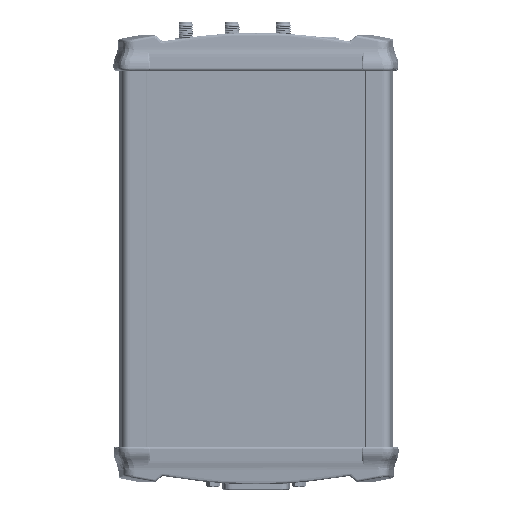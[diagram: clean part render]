
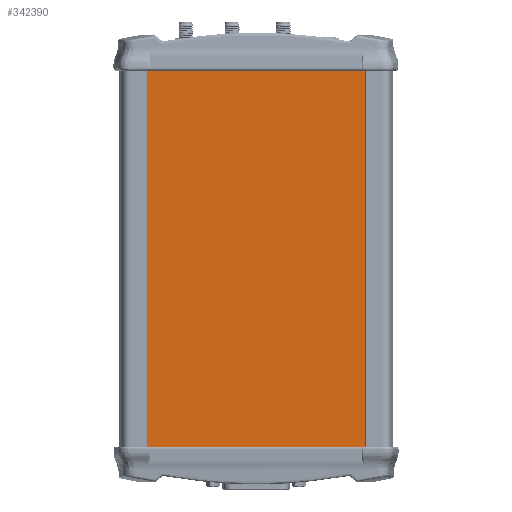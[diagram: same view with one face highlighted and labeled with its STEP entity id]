
A CAD part, front view. The second image highlights one B-rep face of the part: STEP entity #342390.
In plain terms, the highlighted planar face has unit normal (0, -1, 0).
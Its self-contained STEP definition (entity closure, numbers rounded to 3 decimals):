
#36130 = PLANE ( 'NONE',  #423525 ) ;
#43045 = DIRECTION ( 'NONE',  ( -1., 0., 0. ) ) ;
#44597 = LINE ( 'NONE', #115250, #405088 ) ;
#44771 = DIRECTION ( 'NONE',  ( 0., 0., -1. ) ) ;
#53757 = EDGE_LOOP ( 'NONE', ( #518011, #621572, #378261, #443428 ) ) ;
#55401 = EDGE_CURVE ( 'NONE', #606181, #86965, #269823, .T. ) ;
#62452 = VERTEX_POINT ( 'NONE', #195645 ) ;
#80861 = CARTESIAN_POINT ( 'NONE',  ( -42.5, -24.5, -100. ) ) ;
#86965 = VERTEX_POINT ( 'NONE', #520982 ) ;
#115250 = CARTESIAN_POINT ( 'NONE',  ( 42.5, -24.5, -100. ) ) ;
#129766 = CARTESIAN_POINT ( 'NONE',  ( -42.5, -24.5, -100. ) ) ;
#195572 = CARTESIAN_POINT ( 'NONE',  ( 42.5, -24.5, -100. ) ) ;
#195645 = CARTESIAN_POINT ( 'NONE',  ( 42.5, -24.5, -100. ) ) ;
#269823 = LINE ( 'NONE', #80861, #512175 ) ;
#335079 = VECTOR ( 'NONE', #43045, 1000. ) ;
#335499 = CARTESIAN_POINT ( 'NONE',  ( -42.5, -24.5, -100. ) ) ;
#342390 = ADVANCED_FACE ( 'NONE', ( #368012 ), #36130, .T. ) ;
#367227 = EDGE_CURVE ( 'NONE', #62452, #370338, #44597, .T. ) ;
#367738 = EDGE_CURVE ( 'NONE', #606181, #62452, #411416, .T. ) ;
#368012 = FACE_OUTER_BOUND ( 'NONE', #53757, .T. ) ;
#370338 = VERTEX_POINT ( 'NONE', #564543 ) ;
#378261 = ORIENTED_EDGE ( 'NONE', *, *, #367738, .T. ) ;
#387116 = DIRECTION ( 'NONE',  ( 0., 0., 1. ) ) ;
#405088 = VECTOR ( 'NONE', #463312, 1000. ) ;
#411416 = LINE ( 'NONE', #129766, #575718 ) ;
#423525 = AXIS2_PLACEMENT_3D ( 'NONE', #195572, #600364, #44771 ) ;
#443428 = ORIENTED_EDGE ( 'NONE', *, *, #367227, .T. ) ;
#463312 = DIRECTION ( 'NONE',  ( 0., 0., 1. ) ) ;
#512175 = VECTOR ( 'NONE', #387116, 1000. ) ;
#518011 = ORIENTED_EDGE ( 'NONE', *, *, #591419, .T. ) ;
#520982 = CARTESIAN_POINT ( 'NONE',  ( -42.5, -24.5, 50. ) ) ;
#564543 = CARTESIAN_POINT ( 'NONE',  ( 42.5, -24.5, 50. ) ) ;
#575718 = VECTOR ( 'NONE', #582743, 1000. ) ;
#582743 = DIRECTION ( 'NONE',  ( 1., 0., 0. ) ) ;
#591419 = EDGE_CURVE ( 'NONE', #370338, #86965, #617193, .T. ) ;
#598696 = CARTESIAN_POINT ( 'NONE',  ( 42.5, -24.5, 50. ) ) ;
#600364 = DIRECTION ( 'NONE',  ( 0., -1., 0. ) ) ;
#606181 = VERTEX_POINT ( 'NONE', #335499 ) ;
#617193 = LINE ( 'NONE', #598696, #335079 ) ;
#621572 = ORIENTED_EDGE ( 'NONE', *, *, #55401, .F. ) ;
